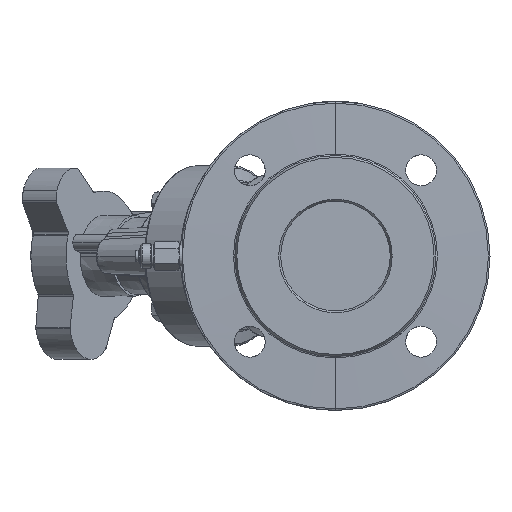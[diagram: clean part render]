
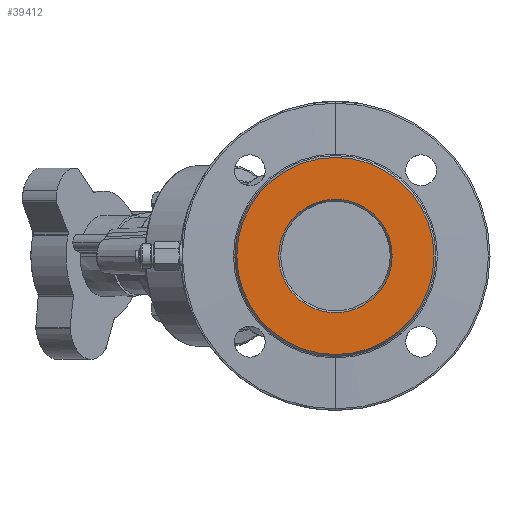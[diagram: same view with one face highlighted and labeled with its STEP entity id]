
A CAD part, left-side view. The second image highlights one B-rep face of the part: STEP entity #39412.
In plain terms, the highlighted planar face has unit normal (-1, 0, 0).
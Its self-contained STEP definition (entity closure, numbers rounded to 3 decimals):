
#2273 = EDGE_CURVE ( 'NONE', #41588, #34050, #60380, .T. ) ;
#3732 = CARTESIAN_POINT ( 'NONE',  ( -70., 0., -59. ) ) ;
#7422 = DIRECTION ( 'NONE',  ( 1., 0., 0. ) ) ;
#8088 = ORIENTED_EDGE ( 'NONE', *, *, #2273, .T. ) ;
#12836 = DIRECTION ( 'NONE',  ( -1., 0., 0. ) ) ;
#12921 = DIRECTION ( 'NONE',  ( 0., 0., 1. ) ) ;
#13157 = CARTESIAN_POINT ( 'NONE',  ( -70., 86., 0. ) ) ;
#14586 = CARTESIAN_POINT ( 'NONE',  ( -70., 0., -33.943 ) ) ;
#19524 = DIRECTION ( 'NONE',  ( 0., 0., 1. ) ) ;
#20452 = DIRECTION ( 'NONE',  ( 1., 0., 0. ) ) ;
#22003 = CIRCLE ( 'NONE', #37084, 59. ) ;
#23394 = EDGE_LOOP ( 'NONE', ( #74728, #40401 ) ) ;
#23829 = ORIENTED_EDGE ( 'NONE', *, *, #50335, .T. ) ;
#25165 = CARTESIAN_POINT ( 'NONE',  ( -70., 0., 0. ) ) ;
#26518 = FACE_BOUND ( 'NONE', #56074, .T. ) ;
#27925 = VERTEX_POINT ( 'NONE', #69739 ) ;
#28923 = AXIS2_PLACEMENT_3D ( 'NONE', #43553, #20452, #61551 ) ;
#29310 = AXIS2_PLACEMENT_3D ( 'NONE', #25165, #7422, #48768 ) ;
#30927 = CARTESIAN_POINT ( 'NONE',  ( -70., 0., 0. ) ) ;
#31921 = DIRECTION ( 'NONE',  ( 0., 0., 1. ) ) ;
#34050 = VERTEX_POINT ( 'NONE', #14586 ) ;
#36589 = VERTEX_POINT ( 'NONE', #3732 ) ;
#36878 = EDGE_CURVE ( 'NONE', #27925, #36589, #22003, .T. ) ;
#37084 = AXIS2_PLACEMENT_3D ( 'NONE', #30927, #37853, #31921 ) ;
#37853 = DIRECTION ( 'NONE',  ( -1., 0., 0. ) ) ;
#39412 = ADVANCED_FACE ( 'NONE', ( #41186, #26518 ), #42186, .T. ) ;
#40401 = ORIENTED_EDGE ( 'NONE', *, *, #36878, .T. ) ;
#41186 = FACE_OUTER_BOUND ( 'NONE', #23394, .T. ) ;
#41588 = VERTEX_POINT ( 'NONE', #42347 ) ;
#42186 = PLANE ( 'NONE',  #63753 ) ;
#42347 = CARTESIAN_POINT ( 'NONE',  ( -70., 0., 33.943 ) ) ;
#43553 = CARTESIAN_POINT ( 'NONE',  ( -70., 0., 0. ) ) ;
#48768 = DIRECTION ( 'NONE',  ( 0., 0., 1. ) ) ;
#50335 = EDGE_CURVE ( 'NONE', #34050, #41588, #63737, .T. ) ;
#52675 = AXIS2_PLACEMENT_3D ( 'NONE', #66569, #12836, #19524 ) ;
#53085 = EDGE_CURVE ( 'NONE', #36589, #27925, #61663, .T. ) ;
#56074 = EDGE_LOOP ( 'NONE', ( #8088, #23829 ) ) ;
#60380 = CIRCLE ( 'NONE', #29310, 33.943 ) ;
#61551 = DIRECTION ( 'NONE',  ( 0., 0., 1. ) ) ;
#61663 = CIRCLE ( 'NONE', #52675, 59. ) ;
#63737 = CIRCLE ( 'NONE', #28923, 33.943 ) ;
#63753 = AXIS2_PLACEMENT_3D ( 'NONE', #13157, #72082, #12921 ) ;
#66569 = CARTESIAN_POINT ( 'NONE',  ( -70., 0., 0. ) ) ;
#69739 = CARTESIAN_POINT ( 'NONE',  ( -70., 0., 59. ) ) ;
#72082 = DIRECTION ( 'NONE',  ( -1., 0., 0. ) ) ;
#74728 = ORIENTED_EDGE ( 'NONE', *, *, #53085, .T. ) ;
